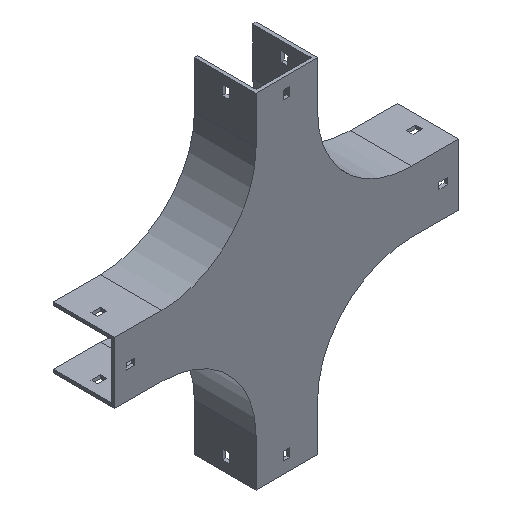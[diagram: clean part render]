
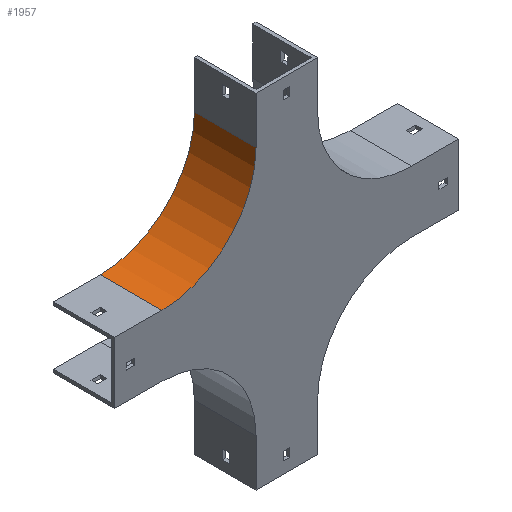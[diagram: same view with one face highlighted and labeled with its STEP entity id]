
A CAD part, isometric view. The second image highlights one B-rep face of the part: STEP entity #1957.
In plain terms, the highlighted cylindrical face has radius 100 mm (diameter 200 mm), a partial arc.
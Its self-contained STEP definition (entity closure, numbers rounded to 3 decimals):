
#93 = DIRECTION ( 'NONE',  ( 0., -1., 0. ) ) ;
#95 = ORIENTED_EDGE ( 'NONE', *, *, #2151, .F. ) ;
#242 = CARTESIAN_POINT ( 'NONE',  ( -165.5, 65.5, 0. ) ) ;
#267 = DIRECTION ( 'NONE',  ( 0., 0., -1. ) ) ;
#319 = DIRECTION ( 'NONE',  ( 0., 0., 1. ) ) ;
#362 = EDGE_CURVE ( 'NONE', #1353, #854, #1262, .T. ) ;
#374 = CARTESIAN_POINT ( 'NONE',  ( -265.5, 0., -100. ) ) ;
#718 = VERTEX_POINT ( 'NONE', #1771 ) ;
#755 = CARTESIAN_POINT ( 'NONE',  ( -265.5, 65.5, 0. ) ) ;
#801 = VERTEX_POINT ( 'NONE', #374 ) ;
#852 = EDGE_CURVE ( 'NONE', #801, #718, #1807, .T. ) ;
#854 = VERTEX_POINT ( 'NONE', #1299 ) ;
#919 = AXIS2_PLACEMENT_3D ( 'NONE', #1094, #2150, #1939 ) ;
#925 = LINE ( 'NONE', #242, #1202 ) ;
#1094 = CARTESIAN_POINT ( 'NONE',  ( -265.5, 0., 0. ) ) ;
#1202 = VECTOR ( 'NONE', #1335, 1000. ) ;
#1262 = CIRCLE ( 'NONE', #1439, 100. ) ;
#1299 = CARTESIAN_POINT ( 'NONE',  ( -165.5, 65.5, 0. ) ) ;
#1335 = DIRECTION ( 'NONE',  ( 0., -1., 0. ) ) ;
#1353 = VERTEX_POINT ( 'NONE', #1548 ) ;
#1374 = AXIS2_PLACEMENT_3D ( 'NONE', #755, #93, #267 ) ;
#1391 = FACE_OUTER_BOUND ( 'NONE', #2197, .T. ) ;
#1420 = LINE ( 'NONE', #2294, #1681 ) ;
#1439 = AXIS2_PLACEMENT_3D ( 'NONE', #2222, #2254, #319 ) ;
#1533 = EDGE_CURVE ( 'NONE', #1353, #801, #1420, .T. ) ;
#1548 = CARTESIAN_POINT ( 'NONE',  ( -265.5, 65.5, -100. ) ) ;
#1552 = CYLINDRICAL_SURFACE ( 'NONE', #1374, 100. ) ;
#1681 = VECTOR ( 'NONE', #1845, 1000. ) ;
#1771 = CARTESIAN_POINT ( 'NONE',  ( -165.5, 0., 0. ) ) ;
#1807 = CIRCLE ( 'NONE', #919, 100. ) ;
#1845 = DIRECTION ( 'NONE',  ( 0., -1., 0. ) ) ;
#1846 = ORIENTED_EDGE ( 'NONE', *, *, #1533, .T. ) ;
#1939 = DIRECTION ( 'NONE',  ( 0., 0., 1. ) ) ;
#1957 = ADVANCED_FACE ( 'NONE', ( #1391 ), #1552, .F. ) ;
#2150 = DIRECTION ( 'NONE',  ( 0., -1., 0. ) ) ;
#2151 = EDGE_CURVE ( 'NONE', #854, #718, #925, .T. ) ;
#2197 = EDGE_LOOP ( 'NONE', ( #2655, #95, #2373, #1846 ) ) ;
#2222 = CARTESIAN_POINT ( 'NONE',  ( -265.5, 65.5, 0. ) ) ;
#2254 = DIRECTION ( 'NONE',  ( 0., -1., 0. ) ) ;
#2294 = CARTESIAN_POINT ( 'NONE',  ( -265.5, 65.5, -100. ) ) ;
#2373 = ORIENTED_EDGE ( 'NONE', *, *, #362, .F. ) ;
#2655 = ORIENTED_EDGE ( 'NONE', *, *, #852, .T. ) ;
